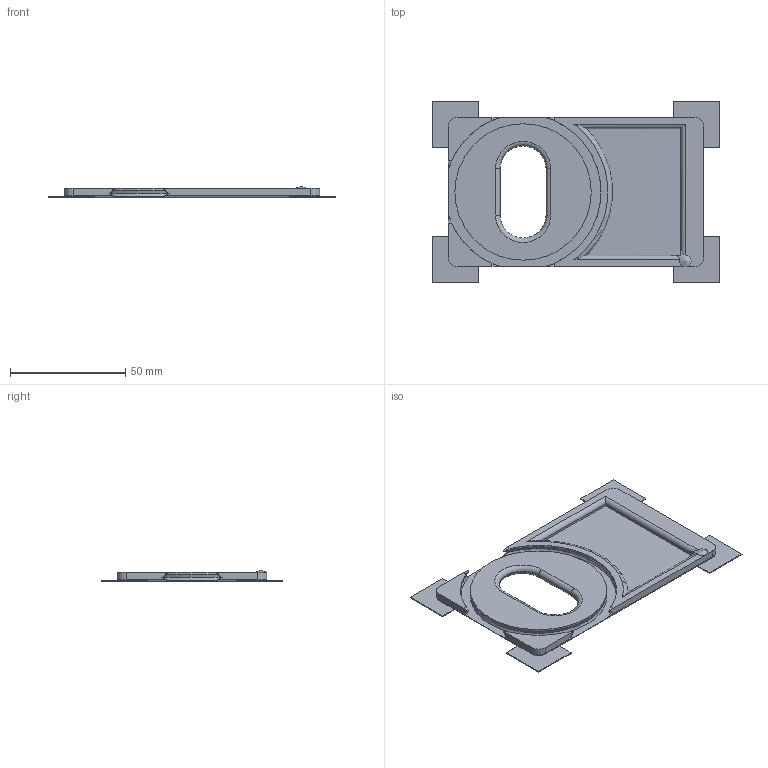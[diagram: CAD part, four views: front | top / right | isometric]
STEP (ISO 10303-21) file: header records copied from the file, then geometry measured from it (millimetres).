
FILE_DESCRIPTION(/* description */ (''),/* implementation_level */ '2;1');
FILE_NAME(/* name */ 'C:\Users\Sam\Documents\XPS\Sam\Inventor\Business Card Holder\STEP files\Top.stp',/* time_stamp */ '2015-11-25T10:14:44-07:00',/* author */ ('Sam'),/* organization */ (''),/* preprocessor_version */ 'ST-DEVELOPER v16.1',/* originating_system */ 'Autodesk Inventor 2016',/* authorisation */ '');
FILE_SCHEMA (('AUTOMOTIVE_DESIGN { 1 0 10303 214 3 1 1 }'));
Length unit declared in the file: millimetre
Products named in the file (1): Top
Bounding box: 125 x 79 x 5.01 mm (x, y, z)
Volume: 18164.7 mm3; surface area: 17847.2 mm2
Topology: 1 solids, 1 shells, 97 faces, 268 edges, 173 vertices
Faces by surface type: plane 45, cylinder 22, bspline 12, torus 9, cone 9
Full cylindrical faces by diameter (mm): 59.25 x1
Entity records: 3802 total; most frequent: CARTESIAN_POINT 1440, ORIENTED_EDGE 526, DIRECTION 435, EDGE_CURVE 263, VERTEX_POINT 172, AXIS2_PLACEMENT_3D 158, LINE 119, VECTOR 119
